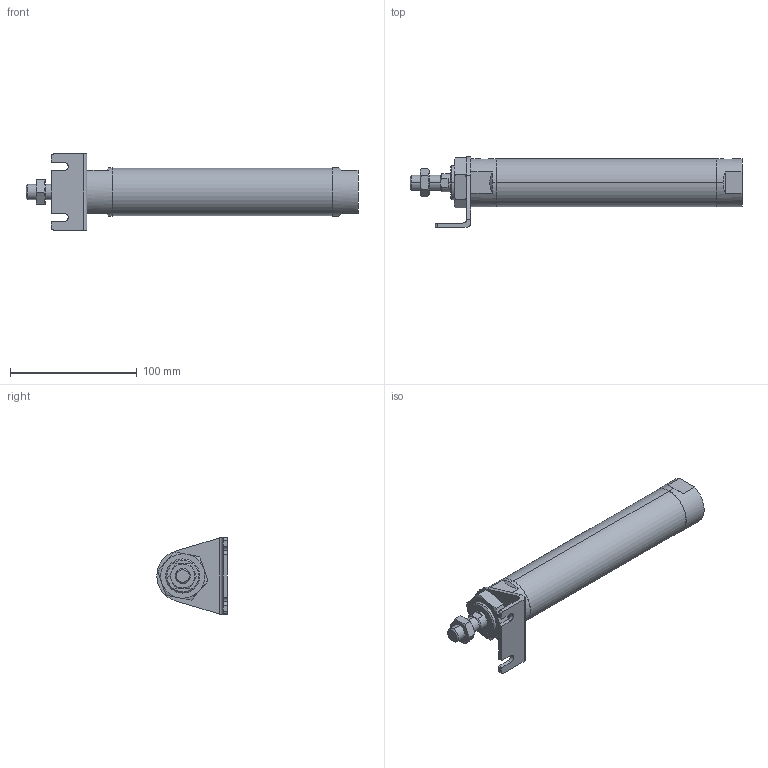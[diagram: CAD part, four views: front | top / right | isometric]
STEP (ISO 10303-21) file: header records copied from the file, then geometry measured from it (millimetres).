
FILE_DESCRIPTION (( 'STEP AP203' ), '1' );
FILE_NAME ('JGND2-32-125-L.STEP', '2016-08-04T02:53:25', ( '' ), ( '' ), 'SwSTEP 2.0', 'SolidWorks 2014', '' );
FILE_SCHEMA (( 'CONFIG_CONTROL_DESIGN' ));
Length unit declared in the file: millimetre
Products named in the file (5): J#2-32-125(P); JGND2-32-125-L; J#2-32-L
Assembly tree (4 placements, depth 2):
  JGND2-32-125-L
    J#2-32-125(P)
    (unnamed)
    (unnamed)
    J#2-32-L
Bounding box: 262 x 55.5 x 60 mm (x, y, z)
Volume: 265038.6 mm3; surface area: 43075.6 mm2
Topology: 4 solids, 4 shells, 116 faces, 273 edges, 167 vertices
Faces by surface type: plane 47, cylinder 32, torus 24, cone 13
Entity records: 4285 total; most frequent: CARTESIAN_POINT 1166, DIRECTION 548, ORIENTED_EDGE 538, EDGE_CURVE 269, AXIS2_PLACEMENT_3D 219, VERTEX_POINT 167, EDGE_LOOP 128, FACE_OUTER_BOUND 116
